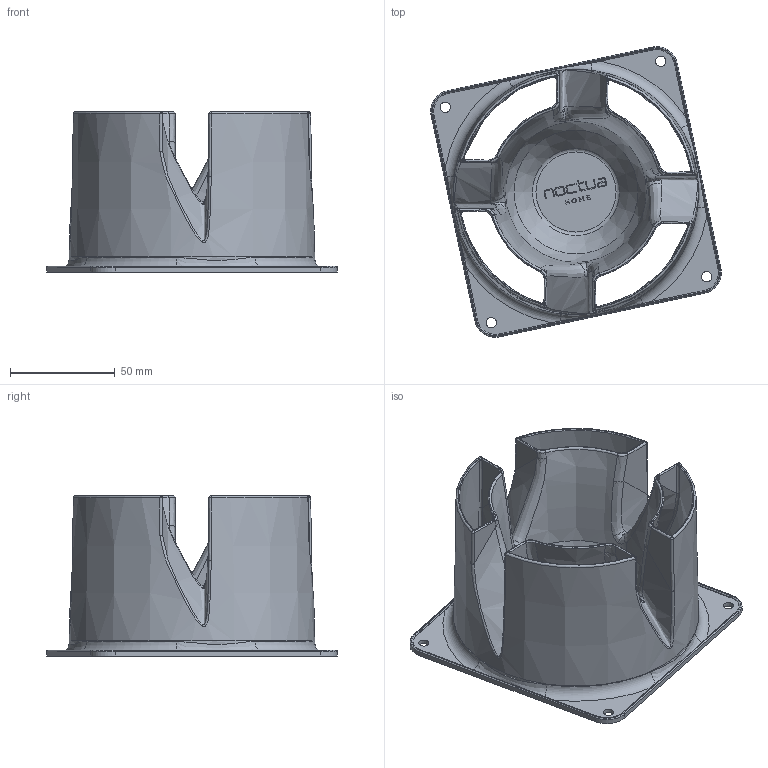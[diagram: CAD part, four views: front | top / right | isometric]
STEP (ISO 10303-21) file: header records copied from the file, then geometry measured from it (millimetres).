
FILE_DESCRIPTION(/* description */ ('NV-AA1'),/* implementation_level */ '2;1');
FILE_NAME(/* name */ 'noctua_nv_aa1_12.stp',/* time_stamp */ '2024-05-21T13:09:15+02:00',/* author */ ('JakobDellinger'),/* organization */ (''),/* preprocessor_version */ 'ST-DEVELOPER v20',/* originating_system */ 'Autodesk Inventor 2024',/* authorisation */ '');
FILE_SCHEMA (('AUTOMOTIVE_DESIGN { 1 0 10303 214 3 1 1 }'));
Length unit declared in the file: millimetre
Products named in the file (1): NV-AA1
Bounding box: 138.59 x 138.59 x 76.45 mm (x, y, z)
Volume: 78817 mm3; surface area: 101483.2 mm2
Topology: 1 solids, 1 shells, 413 faces, 1143 edges, 703 vertices
Faces by surface type: bspline 173, plane 161, torus 30, cylinder 29, cone 12, sphere 8
Full cylindrical faces by diameter (mm): 117 x1
Entity records: 30361 total; most frequent: CARTESIAN_POINT 21263, ORIENTED_EDGE 2214, DIRECTION 1423, EDGE_CURVE 1107, VERTEX_POINT 703, AXIS2_PLACEMENT_3D 503, EDGE_LOOP 436, B_SPLINE_CURVE_WITH_KNOTS 428
